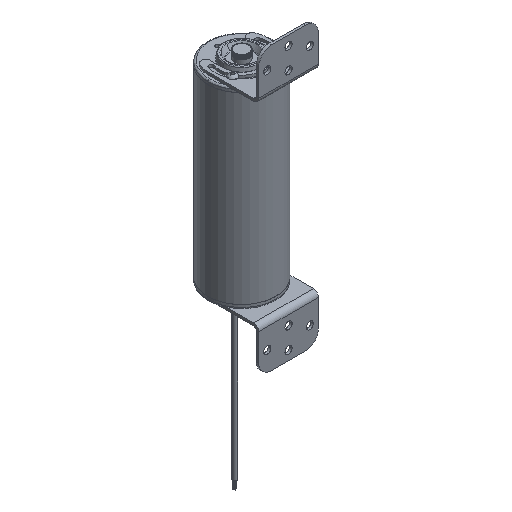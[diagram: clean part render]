
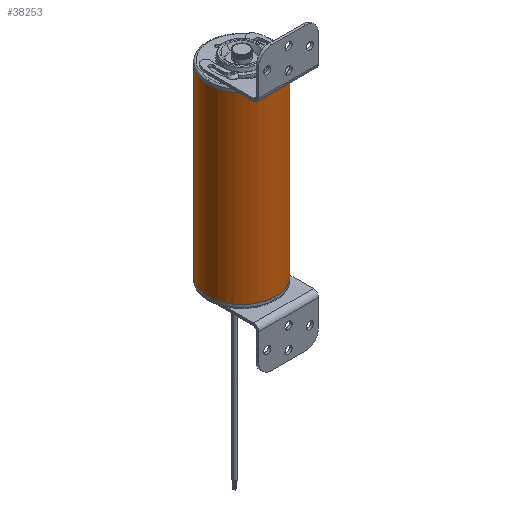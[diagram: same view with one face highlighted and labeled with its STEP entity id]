
A CAD part, isometric view. The second image highlights one B-rep face of the part: STEP entity #38253.
In plain terms, the highlighted cylindrical face has radius 40 mm (diameter 80 mm), a partial arc.
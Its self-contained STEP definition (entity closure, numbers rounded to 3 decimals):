
#1666 = CARTESIAN_POINT ( 'NONE',  ( 0., 0., 215.7 ) ) ;
#2904 = CARTESIAN_POINT ( 'NONE',  ( 0., 0., 0. ) ) ;
#3241 = EDGE_CURVE ( 'NONE', #7587, #25487, #30004, .T. ) ;
#4841 = CARTESIAN_POINT ( 'NONE',  ( 0., 0., 215.7 ) ) ;
#6626 = AXIS2_PLACEMENT_3D ( 'NONE', #2904, #30656, #30049 ) ;
#7287 = CIRCLE ( 'NONE', #6626, 40. ) ;
#7430 = DIRECTION ( 'NONE',  ( 0., 0., -1. ) ) ;
#7587 = VERTEX_POINT ( 'NONE', #28841 ) ;
#7890 = CYLINDRICAL_SURFACE ( 'NONE', #38891, 40. ) ;
#8179 = CARTESIAN_POINT ( 'NONE',  ( -40., 0., 0. ) ) ;
#8318 = DIRECTION ( 'NONE',  ( 0., 0., -1. ) ) ;
#8609 = DIRECTION ( 'NONE',  ( 0., 0., -1. ) ) ;
#8673 = VERTEX_POINT ( 'NONE', #9966 ) ;
#9043 = VECTOR ( 'NONE', #8318, 1000. ) ;
#9966 = CARTESIAN_POINT ( 'NONE',  ( 40., 0., 0. ) ) ;
#10959 = FACE_OUTER_BOUND ( 'NONE', #26114, .T. ) ;
#11813 = LINE ( 'NONE', #17733, #9043 ) ;
#17582 = DIRECTION ( 'NONE',  ( -1., 0., 0. ) ) ;
#17733 = CARTESIAN_POINT ( 'NONE',  ( -40., 0., 215.7 ) ) ;
#17858 = CARTESIAN_POINT ( 'NONE',  ( 40., 0., 215.7 ) ) ;
#17931 = EDGE_CURVE ( 'NONE', #8673, #30149, #7287, .T. ) ;
#19281 = LINE ( 'NONE', #31905, #35235 ) ;
#19389 = EDGE_CURVE ( 'NONE', #25487, #8673, #19281, .T. ) ;
#20913 = AXIS2_PLACEMENT_3D ( 'NONE', #1666, #8609, #17582 ) ;
#23776 = ORIENTED_EDGE ( 'NONE', *, *, #28608, .F. ) ;
#23959 = ORIENTED_EDGE ( 'NONE', *, *, #19389, .T. ) ;
#24587 = DIRECTION ( 'NONE',  ( -1., 0., 0. ) ) ;
#25487 = VERTEX_POINT ( 'NONE', #17858 ) ;
#26114 = EDGE_LOOP ( 'NONE', ( #28014, #23959, #35936, #23776 ) ) ;
#28014 = ORIENTED_EDGE ( 'NONE', *, *, #3241, .T. ) ;
#28608 = EDGE_CURVE ( 'NONE', #7587, #30149, #11813, .T. ) ;
#28841 = CARTESIAN_POINT ( 'NONE',  ( -40., 0., 215.7 ) ) ;
#30004 = CIRCLE ( 'NONE', #20913, 40. ) ;
#30049 = DIRECTION ( 'NONE',  ( -1., 0., 0. ) ) ;
#30149 = VERTEX_POINT ( 'NONE', #8179 ) ;
#30299 = DIRECTION ( 'NONE',  ( 0., 0., -1. ) ) ;
#30656 = DIRECTION ( 'NONE',  ( 0., 0., 1. ) ) ;
#31905 = CARTESIAN_POINT ( 'NONE',  ( 40., 0., 215.7 ) ) ;
#35235 = VECTOR ( 'NONE', #7430, 1000. ) ;
#35936 = ORIENTED_EDGE ( 'NONE', *, *, #17931, .T. ) ;
#38253 = ADVANCED_FACE ( 'NONE', ( #10959 ), #7890, .T. ) ;
#38891 = AXIS2_PLACEMENT_3D ( 'NONE', #4841, #30299, #24587 ) ;
